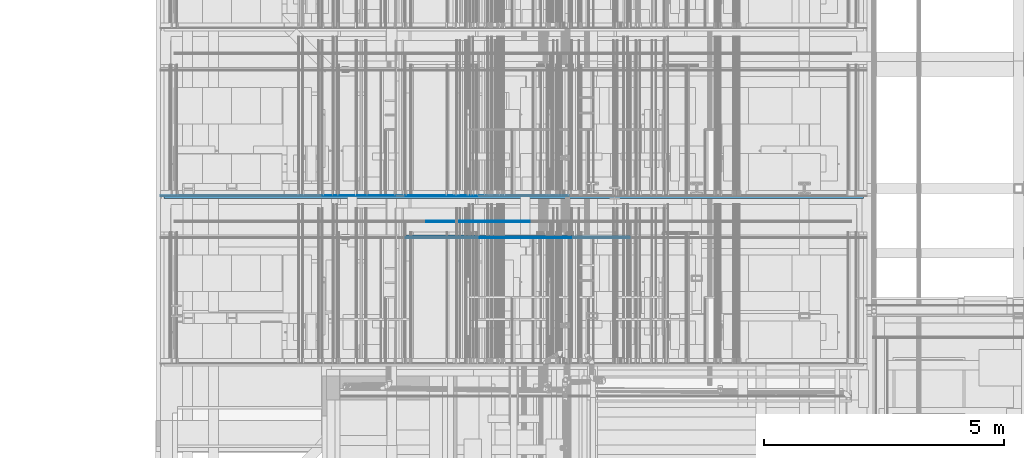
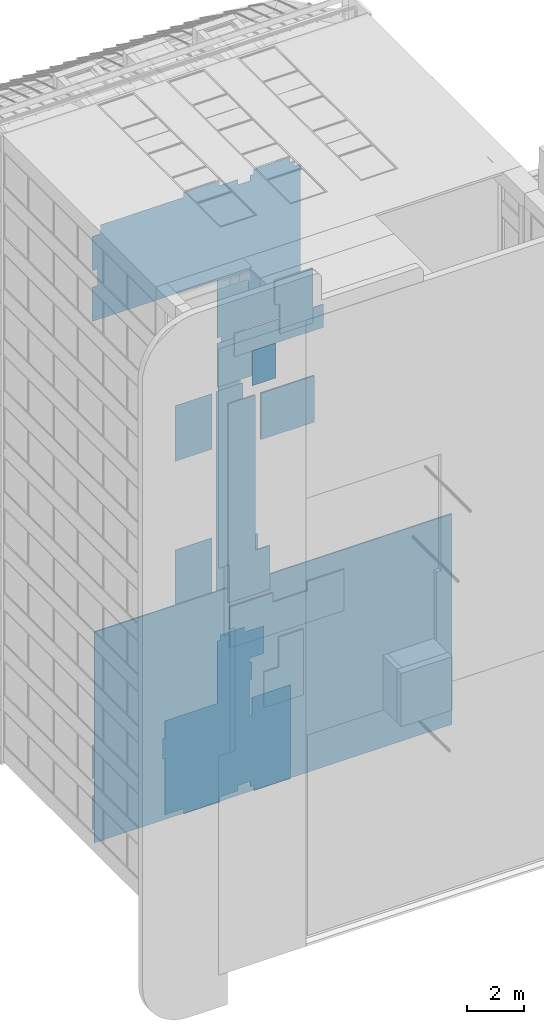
# One storey, part 249 of 583: 23 slabs.
"""IFC2X3 building model written with IfcOpenShell, lengths in metres."""

from ifc_helpers import new_model, entity, si_unit, converted_unit, derived_unit, money_unit, direction, frame, origin_with_axes, place, context, subcontext, project, spatial, faceted_brep, material, type_object, element, save


model = new_model("IFC2X3")

# Units and contexts
model_context = context("Model", 3, precision=1e-05, world=origin_with_axes(), true_north=direction((0.0, 1.0)))
body_context = subcontext(model_context, "Body", "Model", "MODEL_VIEW", scale=1.0)
ifc_project = project(units=[si_unit("LENGTHUNIT", "METRE"), si_unit("AREAUNIT", "SQUARE_METRE"), si_unit("VOLUMEUNIT", "CUBIC_METRE"), si_unit("ABSORBEDDOSEUNIT", "GRAY"), si_unit("AMOUNTOFSUBSTANCEUNIT", "MOLE"), si_unit("DOSEEQUIVALENTUNIT", "SIEVERT"), si_unit("ELECTRICCAPACITANCEUNIT", "FARAD"), si_unit("ELECTRICCHARGEUNIT", "COULOMB"), si_unit("ELECTRICCONDUCTANCEUNIT", "SIEMENS"), si_unit("ELECTRICCURRENTUNIT", "AMPERE"), si_unit("ELECTRICRESISTANCEUNIT", "OHM"), si_unit("ELECTRICVOLTAGEUNIT", "VOLT"), si_unit("ENERGYUNIT", "JOULE"), si_unit("FORCEUNIT", "NEWTON"), si_unit("FREQUENCYUNIT", "HERTZ"), si_unit("ILLUMINANCEUNIT", "LUX"), si_unit("INDUCTANCEUNIT", "HENRY"), si_unit("LUMINOUSFLUXUNIT", "LUMEN"), si_unit("LUMINOUSINTENSITYUNIT", "CANDELA"), si_unit("MAGNETICFLUXDENSITYUNIT", "TESLA"), si_unit("MAGNETICFLUXUNIT", "WEBER"), si_unit("MASSUNIT", "GRAM"), converted_unit("PLANEANGLEUNIT", "degree", entity("IfcReal", 0.0174532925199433), si_unit("PLANEANGLEUNIT", "RADIAN"), dimensions=[0, 0, 0, 0, 0, 0, 0]), si_unit("POWERUNIT", "WATT"), si_unit("PRESSUREUNIT", "PASCAL"), si_unit("RADIOACTIVITYUNIT", "BECQUEREL"), si_unit("SOLIDANGLEUNIT", "STERADIAN"), si_unit("THERMODYNAMICTEMPERATUREUNIT", "KELVIN"), si_unit("TIMEUNIT", "SECOND"), derived_unit("ACCELERATIONUNIT", [(si_unit("LENGTHUNIT", "METRE"), 1), (si_unit("TIMEUNIT", "SECOND"), -2)]), derived_unit("ANGULARVELOCITYUNIT", [(converted_unit("PLANEANGLEUNIT", "degree", entity("IfcReal", 0.0174532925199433), si_unit("PLANEANGLEUNIT", "RADIAN"), dimensions=[0, 0, 0, 0, 0, 0, 0]), 1), (si_unit("TIMEUNIT", "SECOND"), -1)]), derived_unit("CURVATUREUNIT", [(converted_unit("PLANEANGLEUNIT", "degree", entity("IfcReal", 0.0174532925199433), si_unit("PLANEANGLEUNIT", "RADIAN"), dimensions=[0, 0, 0, 0, 0, 0, 0]), 1), (si_unit("LENGTHUNIT", "METRE"), -1)]), derived_unit("DYNAMICVISCOSITYUNIT", [(si_unit("PRESSUREUNIT", "PASCAL"), 1), (si_unit("TIMEUNIT", "SECOND"), 1)]), derived_unit("HEATFLUXDENSITYUNIT", [(si_unit("POWERUNIT", "WATT"), 1), (si_unit("LENGTHUNIT", "METRE"), -2)]), derived_unit("HEATINGVALUEUNIT", [(si_unit("ENERGYUNIT", "JOULE"), 1), (si_unit("MASSUNIT", "GRAM"), -1)]), derived_unit("INTEGERCOUNTRATEUNIT", [(si_unit("TIMEUNIT", "SECOND"), -1)]), derived_unit("IONCONCENTRATIONUNIT", [(si_unit("MASSUNIT", "GRAM"), 1), (si_unit("VOLUMEUNIT", "CUBIC_METRE"), -1)]), derived_unit("ISOTHERMALMOISTURECAPACITYUNIT", [(si_unit("VOLUMEUNIT", "CUBIC_METRE"), 1), (si_unit("MASSUNIT", "GRAM"), -1)]), derived_unit("KINEMATICVISCOSITYUNIT", [(si_unit("AREAUNIT", "SQUARE_METRE"), 1), (si_unit("TIMEUNIT", "SECOND"), -1)]), derived_unit("LINEARFORCEUNIT", [(si_unit("FORCEUNIT", "NEWTON"), 1), (si_unit("LENGTHUNIT", "METRE"), -1)]), derived_unit("LINEARMOMENTUNIT", [(si_unit("FORCEUNIT", "NEWTON"), 1), (si_unit("LENGTHUNIT", "METRE"), -1)]), derived_unit("LINEARSTIFFNESSUNIT", [(si_unit("FORCEUNIT", "NEWTON"), 1), (si_unit("LENGTHUNIT", "METRE"), -1)]), derived_unit("LINEARVELOCITYUNIT", [(si_unit("LENGTHUNIT", "METRE"), 1), (si_unit("TIMEUNIT", "SECOND"), -1)]), derived_unit("LUMINOUSINTENSITYDISTRIBUTIONUNIT", [(si_unit("LUMINOUSINTENSITYUNIT", "CANDELA"), 1), (si_unit("LUMINOUSFLUXUNIT", "LUMEN"), -1)]), derived_unit("MASSDENSITYUNIT", [(si_unit("MASSUNIT", "GRAM"), 1), (si_unit("VOLUMEUNIT", "CUBIC_METRE"), -1)]), derived_unit("MASSFLOWRATEUNIT", [(si_unit("MASSUNIT", "GRAM"), 1), (si_unit("TIMEUNIT", "SECOND"), -1)]), derived_unit("MASSPERLENGTHUNIT", [(si_unit("MASSUNIT", "GRAM"), 1), (si_unit("LENGTHUNIT", "METRE"), -1)]), derived_unit("MODULUSOFELASTICITYUNIT", [(si_unit("FORCEUNIT", "NEWTON"), 1), (si_unit("AREAUNIT", "SQUARE_METRE"), -1)]), derived_unit("MODULUSOFLINEARSUBGRADEREACTIONUNIT", [(si_unit("FORCEUNIT", "NEWTON"), 1), (si_unit("LENGTHUNIT", "METRE"), -2)]), derived_unit("MODULUSOFROTATIONALSUBGRADEREACTIONUNIT", [(si_unit("FORCEUNIT", "NEWTON"), 1), (si_unit("LENGTHUNIT", "METRE"), 1)]), derived_unit("MODULUSOFSUBGRADEREACTIONUNIT", [(si_unit("FORCEUNIT", "NEWTON"), 1), (si_unit("VOLUMEUNIT", "CUBIC_METRE"), -1)]), derived_unit("MOISTUREDIFFUSIVITYUNIT", [(si_unit("VOLUMEUNIT", "CUBIC_METRE"), 1), (si_unit("TIMEUNIT", "SECOND"), -1)]), derived_unit("MOLECULARWEIGHTUNIT", [(si_unit("MASSUNIT", "GRAM"), 1), (si_unit("AMOUNTOFSUBSTANCEUNIT", "MOLE"), -1)]), derived_unit("PLANARFORCEUNIT", [(si_unit("FORCEUNIT", "NEWTON"), 1), (si_unit("LENGTHUNIT", "METRE"), -2)]), derived_unit("ROTATIONALFREQUENCYUNIT", [(si_unit("TIMEUNIT", "SECOND"), -1)]), derived_unit("ROTATIONALMASSUNIT", [(si_unit("MASSUNIT", "GRAM"), 1), (si_unit("LENGTHUNIT", "METRE"), 2)]), derived_unit("ROTATIONALSTIFFNESSUNIT", [(si_unit("FORCEUNIT", "NEWTON"), 1), (si_unit("LENGTHUNIT", "METRE"), 1), (converted_unit("PLANEANGLEUNIT", "degree", entity("IfcReal", 0.0174532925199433), si_unit("PLANEANGLEUNIT", "RADIAN"), dimensions=[0, 0, 0, 0, 0, 0, 0]), -1)]), derived_unit("SECTIONAREAINTEGRALUNIT", [(si_unit("LENGTHUNIT", "METRE"), 5)]), derived_unit("SECTIONMODULUSUNIT", [(si_unit("LENGTHUNIT", "METRE"), 3)]), derived_unit("SHEARMODULUSUNIT", [(si_unit("FORCEUNIT", "NEWTON"), 1), (si_unit("AREAUNIT", "SQUARE_METRE"), -1)]), derived_unit("SOUNDPOWERUNIT", [(si_unit("ENERGYUNIT", "JOULE"), 1), (si_unit("TIMEUNIT", "SECOND"), -1)]), derived_unit("SPECIFICHEATCAPACITYUNIT", [(si_unit("FORCEUNIT", "NEWTON"), 1), (si_unit("MASSUNIT", "GRAM"), -1), (si_unit("THERMODYNAMICTEMPERATUREUNIT", "KELVIN"), -1)]), derived_unit("TEMPERATUREGRADIENTUNIT", [(si_unit("THERMODYNAMICTEMPERATUREUNIT", "KELVIN"), 1), (si_unit("LENGTHUNIT", "METRE"), -1)]), derived_unit("THERMALADMITTANCEUNIT", [(si_unit("POWERUNIT", "WATT"), 1), (si_unit("AREAUNIT", "SQUARE_METRE"), -1), (si_unit("THERMODYNAMICTEMPERATUREUNIT", "KELVIN"), -1)]), derived_unit("THERMALCONDUCTANCEUNIT", [(si_unit("POWERUNIT", "WATT"), 1), (si_unit("LENGTHUNIT", "METRE"), -1), (si_unit("THERMODYNAMICTEMPERATUREUNIT", "KELVIN"), -1)]), derived_unit("THERMALEXPANSIONCOEFFICIENTUNIT", [(si_unit("THERMODYNAMICTEMPERATUREUNIT", "KELVIN"), -1)]), derived_unit("THERMALRESISTANCEUNIT", [(si_unit("AREAUNIT", "SQUARE_METRE"), 1), (si_unit("POWERUNIT", "WATT"), -1)]), derived_unit("THERMALTRANSMITTANCEUNIT", [(si_unit("POWERUNIT", "WATT"), 1), (si_unit("AREAUNIT", "SQUARE_METRE"), -1), (si_unit("THERMODYNAMICTEMPERATUREUNIT", "KELVIN"), -1)]), derived_unit("TORQUEUNIT", [(si_unit("FORCEUNIT", "NEWTON"), 1), (si_unit("LENGTHUNIT", "METRE"), 1)]), derived_unit("VAPORPERMEABILITYUNIT", [(si_unit("MASSUNIT", "GRAM"), 1), (si_unit("TIMEUNIT", "SECOND"), -1)]), derived_unit("VOLUMETRICFLOWRATEUNIT", [(si_unit("VOLUMEUNIT", "CUBIC_METRE"), 1), (si_unit("TIMEUNIT", "SECOND"), -1)]), derived_unit("WARPINGCONSTANTUNIT", [(si_unit("LENGTHUNIT", "METRE"), 6)]), derived_unit("WARPINGMOMENTUNIT", [(si_unit("FORCEUNIT", "NEWTON"), 1), (si_unit("LENGTHUNIT", "METRE"), 2)]), money_unit("GBP")], contexts=[model_context])

# Site, building, storey
site_placement = place(None, origin_with_axes())
site = spatial("IfcSite", under=ifc_project, at=site_placement, Name="Site", CompositionType="ELEMENT")
building_placement = place(site_placement, origin_with_axes())
building = spatial("IfcBuilding", under=site, at=building_placement, Name="Building01", CompositionType="ELEMENT")
storey_placement = place(building_placement, frame((0.0, 0.0, 20.78), z_axis=(0.0, 0.0, 1.0), x_axis=(1.0, 0.0, 0.0)))
storey = spatial("IfcBuildingStorey", under=building, at=storey_placement, Name="RL", CompositionType="ELEMENT", Elevation=20.78)

# Slabs
ifc_material_1 = material(Name="A_BSUK_CeilingSoffitFinishes_Suspended")
slab_type_1 = type_object("IfcSlabType", Name="A-FloorsSlabs A_BSUK_Slabs", PredefinedType="FLOOR")
placement = place(storey_placement, frame((0.0, 0.0, -20.78), z_axis=(0.0, 0.0, 1.0), x_axis=(1.0, 0.0, 0.0)))
element("IfcSlab", 1, at=placement, inside=storey, type_object=slab_type_1, material=ifc_material_1, Name="A-FloorsSlabs A_BSUK_Slabs", ObjectType="CompoundSlabLeaf", context=body_context, shape_type="Brep", body=[
    faceted_brep([(5.205, 7.765, 7.289669), (5.205, 7.78, 7.289669), (9.862704, 7.78, 7.289669), (9.862704, 7.765, 7.289669), (5.205, 7.765, 9.06), (5.205, 7.78, 9.06), (6.968405, 7.765, 9.06), (6.968405, 7.78, 9.06), (6.968405, 7.765, 8.658), (6.968405, 7.78, 8.658), (8.372405, 7.765, 8.658), (8.372405, 7.78, 8.658), (8.372405, 7.765, 9.06), (8.372405, 7.78, 9.06), (8.665, 7.765, 9.06), (8.665, 7.78, 9.06), (9.862704, 7.765, 9.06), (9.862704, 7.78, 9.06)], [[[0, 1, 2, 3]], [[4, 5, 1, 0]], [[6, 7, 5, 4]], [[8, 9, 7, 6]], [[10, 11, 9, 8]], [[12, 13, 11, 10]], [[14, 15, 13, 12]], [[16, 17, 15, 14]], [[3, 2, 17, 16]], [[1, 5, 7, 9, 11, 13, 15, 17, 2]], [[3, 16, 14, 12, 10, 8, 6, 4, 0]]]),
])
element("IfcSlab", 2, at=placement, inside=storey, type_object=slab_type_1, material=ifc_material_1, Name="A-FloorsSlabs A_BSUK_Slabs", ObjectType="CompoundSlabLeaf", context=body_context, shape_type="Brep", body=[
    faceted_brep([(6.475, 7.765, 15.83), (6.475, 7.78, 15.83), (8.65, 7.78, 15.83), (8.65, 7.765, 15.83), (6.475, 7.765, 17.83), (6.475, 7.78, 17.83), (8.65, 7.765, 17.83), (8.65, 7.78, 17.83)], [[[0, 1, 2, 3]], [[4, 5, 1, 0]], [[6, 7, 5, 4]], [[3, 2, 7, 6]], [[1, 5, 7, 2]], [[3, 6, 4, 0]]]),
])
element("IfcSlab", 3, at=placement, inside=storey, type_object=slab_type_1, material=ifc_material_1, Name="A-FloorsSlabs A_BSUK_Slabs", ObjectType="CompoundSlabLeaf", context=body_context, shape_type="Brep", body=[
    faceted_brep([(8.595, 7.765, 20.122661), (8.595, 7.78, 20.122661), (8.595, 7.78, 22.476661), (8.595, 7.765, 22.476661), (7.25, 7.765, 20.122661), (7.25, 7.78, 20.122661), (7.25, 7.765, 21.417661), (7.25, 7.78, 21.417661), (7.05, 7.765, 21.417661), (7.05, 7.78, 21.417661), (7.05, 7.765, 22.476661), (7.05, 7.78, 22.476661)], [[[0, 1, 2, 3]], [[4, 5, 1, 0]], [[6, 7, 5, 4]], [[8, 9, 7, 6]], [[10, 11, 9, 8]], [[3, 2, 11, 10]], [[1, 5, 7, 9, 11, 2]], [[3, 10, 8, 6, 4, 0]]]),
])
element("IfcSlab", 4, at=placement, inside=storey, type_object=slab_type_1, material=ifc_material_1, Name="A-FloorsSlabs A_BSUK_Slabs", ObjectType="CompoundSlabLeaf", context=body_context, shape_type="Brep", body=[
    faceted_brep([(8.21067, 7.765, 4.24073), (8.21067, 7.78, 4.24073), (8.21067, 7.78, 7.064669), (8.21067, 7.765, 7.064669), (6.606475, 7.765, 4.24073), (6.606475, 7.78, 4.24073), (6.606475, 7.765, 5.769669), (6.606475, 7.78, 5.769669), (7.206475, 7.765, 5.769669), (7.206475, 7.78, 5.769669), (7.206475, 7.765, 7.064669), (7.206475, 7.78, 7.064669)], [[[0, 1, 2, 3]], [[4, 5, 1, 0]], [[6, 7, 5, 4]], [[8, 9, 7, 6]], [[10, 11, 9, 8]], [[3, 2, 11, 10]], [[1, 5, 7, 9, 11, 2]], [[3, 10, 8, 6, 4, 0]]]),
])
element("IfcSlab", 5, at=placement, inside=storey, type_object=slab_type_1, material=ifc_material_1, Name="A-FloorsSlabs A_BSUK_Slabs", ObjectType="CompoundSlabLeaf", context=body_context, shape_type="Brep", body=[
    faceted_brep([(5.593, 8.115, 19.510161), (5.593, 8.13, 19.510161), (9.2075, 8.13, 19.510161), (9.2075, 8.115, 19.510161), (5.593, 8.115, 20.510161), (5.593, 8.13, 20.510161), (9.2075, 8.115, 20.510161), (9.2075, 8.13, 20.510161)], [[[0, 1, 2, 3]], [[4, 5, 1, 0]], [[6, 7, 5, 4]], [[3, 2, 7, 6]], [[1, 5, 7, 2]], [[3, 6, 4, 0]]]),
])
element("IfcSlab", 6, at=placement, inside=storey, type_object=slab_type_1, material=ifc_material_1, Name="A-FloorsSlabs A_BSUK_Slabs", ObjectType="CompoundSlabLeaf", context=body_context, shape_type="Brep", body=[
    faceted_brep([(6.3175, 8.115, 18.0), (6.3175, 8.13, 18.0), (7.27, 8.13, 18.0), (7.27, 8.115, 18.0), (6.3175, 8.115, 19.510161), (6.3175, 8.13, 19.510161), (7.27, 8.115, 19.510161), (7.27, 8.13, 19.510161)], [[[0, 1, 2, 3]], [[4, 5, 1, 0]], [[6, 7, 5, 4]], [[3, 2, 7, 6]], [[1, 5, 7, 2]], [[3, 6, 4, 0]]]),
])
element("IfcSlab", 7, at=placement, inside=storey, type_object=slab_type_1, material=ifc_material_1, Name="A-FloorsSlabs A_BSUK_Slabs", ObjectType="CompoundSlabLeaf", context=body_context, shape_type="Brep", body=[
    faceted_brep([(5.593, 8.1, 19.510161), (5.593, 8.115, 19.510161), (9.2075, 8.115, 19.510161), (9.2075, 8.1, 19.510161), (5.593, 8.1, 20.510161), (5.593, 8.115, 20.510161), (9.2075, 8.1, 20.510161), (9.2075, 8.115, 20.510161)], [[[0, 1, 2, 3]], [[4, 5, 1, 0]], [[6, 7, 5, 4]], [[3, 2, 7, 6]], [[1, 5, 7, 2]], [[3, 6, 4, 0]]]),
])
element("IfcSlab", 8, at=placement, inside=storey, type_object=slab_type_1, material=ifc_material_1, Name="A-FloorsSlabs A_BSUK_Slabs", ObjectType="CompoundSlabLeaf", context=body_context, shape_type="Brep", body=[
    faceted_brep([(6.3175, 8.1, 18.0), (6.3175, 8.115, 18.0), (7.27, 8.115, 18.0), (7.27, 8.1, 18.0), (6.3175, 8.1, 19.510161), (6.3175, 8.115, 19.510161), (7.27, 8.1, 19.510161), (7.27, 8.115, 19.510161)], [[[0, 1, 2, 3]], [[4, 5, 1, 0]], [[6, 7, 5, 4]], [[3, 2, 7, 6]], [[1, 5, 7, 2]], [[3, 6, 4, 0]]]),
])
ifc_material_2 = material(Name="A_BSUK_InternalFinishes_FloorScreed")
element("IfcSlab", 9, at=placement, inside=storey, type_object=slab_type_1, material=ifc_material_2, Name="A-FloorsSlabs A_BSUK_Slabs", ObjectType="CompoundSlabLeaf", context=body_context, shape_type="Brep", body=[
    faceted_brep([(14.73, 8.59, 0.17), (14.73, 8.64, 0.17), (14.73, 8.64, 9.25), (14.73, 8.59, 9.25), (0.17, 8.59, 0.17), (0.17, 8.64, 0.17), (0.17, 8.59, 9.25), (0.17, 8.64, 9.25)], [[[0, 1, 2, 3]], [[4, 5, 1, 0]], [[6, 7, 5, 4]], [[3, 2, 7, 6]], [[1, 5, 7, 2]], [[3, 6, 4, 0]]]),
])
ifc_material_3 = material(Name="A_BSUK_ExpandedPolystyreneBoards")
element("IfcSlab", 10, at=placement, inside=storey, type_object=slab_type_1, material=ifc_material_3, Name="A-FloorsSlabs A_BSUK_Slabs", ObjectType="CompoundSlabLeaf", context=body_context, shape_type="Brep", body=[
    faceted_brep([(6.69, 8.64, 18.0), (6.69, 8.643, 18.0), (6.69, 8.643, 19.897661), (6.69, 8.64, 19.897661), (5.205, 8.64, 18.0), (5.205, 8.643, 18.0), (5.205, 8.64, 19.897661), (5.205, 8.643, 19.897661)], [[[0, 1, 2, 3]], [[4, 5, 1, 0]], [[6, 7, 5, 4]], [[3, 2, 7, 6]], [[1, 5, 7, 2]], [[3, 6, 4, 0]]]),
])
element("IfcSlab", 11, at=placement, inside=storey, type_object=slab_type_1, material=ifc_material_3, Name="A-FloorsSlabs A_BSUK_Slabs", ObjectType="CompoundSlabLeaf", context=body_context, shape_type="Brep", body=[
    faceted_brep([(6.357147, 8.64, 20.122661), (6.357147, 8.643, 20.122661), (8.595, 8.643, 20.122661), (8.595, 8.64, 20.122661), (6.357147, 8.64, 19.897661), (6.357147, 8.643, 19.897661), (5.357147, 8.64, 19.897661), (5.357147, 8.643, 19.897661), (5.357147, 8.64, 20.122661), (5.357147, 8.643, 20.122661), (5.205, 8.64, 20.122661), (5.205, 8.643, 20.122661), (5.205, 8.64, 22.625), (5.205, 8.643, 22.625), (0.1, 8.64, 22.625), (0.1, 8.643, 22.625), (0.1, 8.64, 24.095), (0.1, 8.643, 24.095), (0.318, 8.64, 24.095), (0.318, 8.643, 24.095), (0.318, 8.64, 24.815), (0.318, 8.643, 24.815), (0.1, 8.64, 24.815), (0.1, 8.643, 24.815), (0.1, 8.64, 26.285), (0.1, 8.643, 26.285), (0.448, 8.64, 26.285), (0.448, 8.643, 26.285), (0.448, 8.64, 26.662), (0.448, 8.643, 26.662), (3.82218, 8.64, 26.662), (3.82218, 8.643, 26.662), (3.82218, 8.64, 26.88), (3.82218, 8.643, 26.88), (5.29218, 8.64, 26.88), (5.29218, 8.643, 26.88), (5.29218, 8.64, 26.662), (5.29218, 8.643, 26.662), (6.052, 8.64, 26.662), (6.052, 8.643, 26.662), (6.052, 8.64, 26.432), (6.052, 8.643, 26.432), (6.548, 8.64, 26.432), (6.548, 8.643, 26.432), (6.548, 8.64, 26.662), (6.548, 8.643, 26.662), (6.682326, 8.64, 26.662), (6.682326, 8.643, 26.662), (6.682326, 8.64, 26.88), (6.682326, 8.643, 26.88), (8.152326, 8.64, 26.88), (8.152326, 8.643, 26.88), (8.152326, 8.64, 26.662), (8.152326, 8.643, 26.662), (8.352, 8.64, 26.662), (8.352, 8.643, 26.662), (8.352, 8.64, 26.432), (8.352, 8.643, 26.432), (8.595, 8.64, 26.432), (8.595, 8.643, 26.432)], [[[0, 1, 2, 3]], [[4, 5, 1, 0]], [[6, 7, 5, 4]], [[8, 9, 7, 6]], [[10, 11, 9, 8]], [[12, 13, 11, 10]], [[14, 15, 13, 12]], [[16, 17, 15, 14]], [[18, 19, 17, 16]], [[20, 21, 19, 18]], [[22, 23, 21, 20]], [[24, 25, 23, 22]], [[26, 27, 25, 24]], [[28, 29, 27, 26]], [[30, 31, 29, 28]], [[32, 33, 31, 30]], [[34, 35, 33, 32]], [[36, 37, 35, 34]], [[38, 39, 37, 36]], [[40, 41, 39, 38]], [[42, 43, 41, 40]], [[44, 45, 43, 42]], [[46, 47, 45, 44]], [[48, 49, 47, 46]], [[50, 51, 49, 48]], [[52, 53, 51, 50]], [[54, 55, 53, 52]], [[56, 57, 55, 54]], [[58, 59, 57, 56]], [[3, 2, 59, 58]], [[1, 5, 7, 9, 11, 13, 15, 17, 19, 21, 23, 25, 27, 29, 31, 33, 35, 37, 39, 41, 43, 45, 47, 49, 51, 53, 55, 57, 59, 2]], [[3, 58, 56, 54, 52, 50, 48, 46, 44, 42, 40, 38, 36, 34, 32, 30, 28, 26, 24, 22, 20, 18, 16, 14, 12, 10, 8, 6, 4, 0]]]),
])
element("IfcSlab", 12, at=placement, inside=storey, type_object=slab_type_1, material=ifc_material_3, Name="A-FloorsSlabs A_BSUK_Slabs", ObjectType="CompoundSlabLeaf", context=body_context, shape_type="Brep", body=[
    faceted_brep([(8.21067, 8.64, 0.318), (8.21067, 8.643, 0.318), (8.21067, 8.643, 7.064669), (8.21067, 8.64, 7.064669), (8.185, 8.64, 0.318), (8.185, 8.643, 0.318), (8.185, 8.64, 0.1), (8.185, 8.643, 0.1), (6.69218, 8.64, 0.1), (6.69218, 8.643, 0.1), (6.69218, 8.64, 0.318), (6.69218, 8.643, 0.318), (6.548, 8.64, 0.318), (6.548, 8.643, 0.318), (6.548, 8.64, 0.548), (6.548, 8.643, 0.548), (6.052, 8.64, 0.548), (6.052, 8.643, 0.548), (6.052, 8.64, 0.318), (6.052, 8.643, 0.318), (5.315, 8.64, 0.318), (5.315, 8.643, 0.318), (5.315, 8.64, 0.1), (5.315, 8.643, 0.1), (3.82218, 8.64, 0.1), (3.82218, 8.643, 0.1), (3.82218, 8.64, 0.318), (3.82218, 8.643, 0.318), (0.448, 8.64, 0.318), (0.448, 8.643, 0.318), (0.448, 8.64, 0.725), (0.448, 8.643, 0.725), (0.1, 8.64, 0.725), (0.1, 8.643, 0.725), (0.1, 8.64, 2.195), (0.1, 8.643, 2.195), (0.318, 8.64, 2.195), (0.318, 8.643, 2.195), (0.318, 8.64, 2.915), (0.318, 8.643, 2.915), (0.1, 8.64, 2.915), (0.1, 8.643, 2.915), (0.1, 8.64, 4.385), (0.1, 8.643, 4.385), (0.318, 8.64, 4.385), (0.318, 8.643, 4.385), (5.205, 8.64, 4.385), (5.205, 8.643, 4.385), (5.205, 8.64, 7.064669), (5.205, 8.643, 7.064669), (5.316475, 8.64, 7.064669), (5.316475, 8.643, 7.064669), (5.316475, 8.64, 7.289669), (5.316475, 8.643, 7.289669), (6.316475, 8.64, 7.289669), (6.316475, 8.643, 7.289669), (6.316475, 8.64, 7.064669), (6.316475, 8.643, 7.064669)], [[[0, 1, 2, 3]], [[4, 5, 1, 0]], [[6, 7, 5, 4]], [[8, 9, 7, 6]], [[10, 11, 9, 8]], [[12, 13, 11, 10]], [[14, 15, 13, 12]], [[16, 17, 15, 14]], [[18, 19, 17, 16]], [[20, 21, 19, 18]], [[22, 23, 21, 20]], [[24, 25, 23, 22]], [[26, 27, 25, 24]], [[28, 29, 27, 26]], [[30, 31, 29, 28]], [[32, 33, 31, 30]], [[34, 35, 33, 32]], [[36, 37, 35, 34]], [[38, 39, 37, 36]], [[40, 41, 39, 38]], [[42, 43, 41, 40]], [[44, 45, 43, 42]], [[46, 47, 45, 44]], [[48, 49, 47, 46]], [[50, 51, 49, 48]], [[52, 53, 51, 50]], [[54, 55, 53, 52]], [[56, 57, 55, 54]], [[3, 2, 57, 56]], [[1, 5, 7, 9, 11, 13, 15, 17, 19, 21, 23, 25, 27, 29, 31, 33, 35, 37, 39, 41, 43, 45, 47, 49, 51, 53, 55, 57, 2]], [[3, 56, 54, 52, 50, 48, 46, 44, 42, 40, 38, 36, 34, 32, 30, 28, 26, 24, 22, 20, 18, 16, 14, 12, 10, 8, 6, 4, 0]]]),
])
ifc_material_4 = material(Name="A_BSUK_Parquet_Floor")
element("IfcSlab", 13, at=placement, inside=storey, type_object=slab_type_1, material=ifc_material_4, Name="A-FloorsSlabs A_BSUK_Slabs", ObjectType="CompoundSlabLeaf", context=body_context, shape_type="Brep", body=[
    faceted_brep([(5.357147, 8.643, 19.897661), (5.357147, 8.655, 19.897661), (6.357147, 8.655, 19.897661), (6.357147, 8.643, 19.897661), (5.357147, 8.643, 20.122661), (5.357147, 8.655, 20.122661), (5.205, 8.643, 20.122661), (5.205, 8.655, 20.122661), (5.205, 8.643, 22.625), (5.205, 8.655, 22.625), (0.1, 8.643, 22.625), (0.1, 8.655, 22.625), (0.1, 8.643, 24.095), (0.1, 8.655, 24.095), (0.318, 8.643, 24.095), (0.318, 8.655, 24.095), (0.318, 8.643, 24.815), (0.318, 8.655, 24.815), (0.1, 8.643, 24.815), (0.1, 8.655, 24.815), (0.1, 8.643, 26.285), (0.1, 8.655, 26.285), (0.448, 8.643, 26.285), (0.448, 8.655, 26.285), (0.448, 8.643, 26.662), (0.448, 8.655, 26.662), (3.82218, 8.643, 26.662), (3.82218, 8.655, 26.662), (3.82218, 8.643, 26.88), (3.82218, 8.655, 26.88), (5.29218, 8.643, 26.88), (5.29218, 8.655, 26.88), (5.29218, 8.643, 26.662), (5.29218, 8.655, 26.662), (6.052, 8.643, 26.662), (6.052, 8.655, 26.662), (6.052, 8.643, 26.432), (6.052, 8.655, 26.432), (6.548, 8.643, 26.432), (6.548, 8.655, 26.432), (6.548, 8.643, 26.662), (6.548, 8.655, 26.662), (6.682326, 8.643, 26.662), (6.682326, 8.655, 26.662), (6.682326, 8.643, 26.88), (6.682326, 8.655, 26.88), (8.152326, 8.643, 26.88), (8.152326, 8.655, 26.88), (8.152326, 8.643, 26.662), (8.152326, 8.655, 26.662), (8.352, 8.643, 26.662), (8.352, 8.655, 26.662), (8.352, 8.643, 26.432), (8.352, 8.655, 26.432), (8.595, 8.643, 26.432), (8.595, 8.655, 26.432), (8.595, 8.643, 22.571661), (8.595, 8.655, 22.571661), (7.0, 8.643, 22.571661), (7.0, 8.655, 22.571661), (7.0, 8.643, 23.271529), (7.0, 8.655, 23.271529), (6.905, 8.643, 23.271529), (6.905, 8.655, 23.271529), (6.905, 8.643, 22.326661), (6.905, 8.655, 22.326661), (7.0, 8.643, 22.326661), (7.0, 8.655, 22.326661), (7.0, 8.643, 21.576661), (7.0, 8.655, 21.576661), (6.905, 8.643, 21.576661), (6.905, 8.655, 21.576661), (6.905, 8.643, 21.322661), (6.905, 8.655, 21.322661), (7.155, 8.643, 21.322661), (7.155, 8.655, 21.322661), (7.155, 8.643, 20.122661), (7.155, 8.655, 20.122661), (6.905, 8.643, 20.122661), (6.905, 8.655, 20.122661), (6.357147, 8.643, 20.122661), (6.357147, 8.655, 20.122661)], [[[0, 1, 2, 3]], [[4, 5, 1, 0]], [[6, 7, 5, 4]], [[8, 9, 7, 6]], [[10, 11, 9, 8]], [[12, 13, 11, 10]], [[14, 15, 13, 12]], [[16, 17, 15, 14]], [[18, 19, 17, 16]], [[20, 21, 19, 18]], [[22, 23, 21, 20]], [[24, 25, 23, 22]], [[26, 27, 25, 24]], [[28, 29, 27, 26]], [[30, 31, 29, 28]], [[32, 33, 31, 30]], [[34, 35, 33, 32]], [[36, 37, 35, 34]], [[38, 39, 37, 36]], [[40, 41, 39, 38]], [[42, 43, 41, 40]], [[44, 45, 43, 42]], [[46, 47, 45, 44]], [[48, 49, 47, 46]], [[50, 51, 49, 48]], [[52, 53, 51, 50]], [[54, 55, 53, 52]], [[56, 57, 55, 54]], [[58, 59, 57, 56]], [[60, 61, 59, 58]], [[62, 63, 61, 60]], [[64, 65, 63, 62]], [[66, 67, 65, 64]], [[68, 69, 67, 66]], [[70, 71, 69, 68]], [[72, 73, 71, 70]], [[74, 75, 73, 72]], [[76, 77, 75, 74]], [[78, 79, 77, 76]], [[80, 81, 79, 78]], [[3, 2, 81, 80]], [[1, 5, 7, 9, 11, 13, 15, 17, 19, 21, 23, 25, 27, 29, 31, 33, 35, 37, 39, 41, 43, 45, 47, 49, 51, 53, 55, 57, 59, 61, 63, 65, 67, 69, 71, 73, 75, 77, 79, 81, 2]], [[3, 80, 78, 76, 74, 72, 70, 68, 66, 64, 62, 60, 58, 56, 54, 52, 50, 48, 46, 44, 42, 40, 38, 36, 34, 32, 30, 28, 26, 24, 22, 20, 18, 16, 14, 12, 10, 8, 6, 4, 0]]]),
])
ifc_material_5 = material(Name="A_BSUK_Ceramic_FloorTiles")
element("IfcSlab", 14, at=placement, inside=storey, type_object=slab_type_1, material=ifc_material_5, Name="A-FloorsSlabs A_BSUK_Slabs", ObjectType="CompoundSlabLeaf", context=body_context, shape_type="Brep", body=[
    faceted_brep([(4.98, 8.643, 15.4075), (4.98, 8.655, 15.4075), (4.98, 8.655, 17.8075), (4.98, 8.643, 17.8075), (4.259428, 8.643, 15.4075), (4.259428, 8.655, 15.4075), (3.48, 8.643, 15.4075), (3.48, 8.655, 15.4075), (3.48, 8.643, 17.8075), (3.48, 8.655, 17.8075)], [[[0, 1, 2, 3]], [[4, 5, 1, 0]], [[6, 7, 5, 4]], [[8, 9, 7, 6]], [[3, 2, 9, 8]], [[1, 5, 7, 9, 2]], [[3, 8, 6, 4, 0]]]),
])
element("IfcSlab", 15, at=placement, inside=storey, type_object=slab_type_1, material=ifc_material_5, Name="A-FloorsSlabs A_BSUK_Slabs", ObjectType="CompoundSlabLeaf", context=body_context, shape_type="Brep", body=[
    faceted_brep([(4.98, 8.643, 9.192536), (4.98, 8.655, 9.192536), (4.98, 8.655, 11.592536), (4.98, 8.643, 11.592536), (3.48, 8.643, 9.192536), (3.48, 8.655, 9.192536), (3.48, 8.643, 11.592536), (3.48, 8.655, 11.592536), (4.259428, 8.643, 11.592536), (4.259428, 8.655, 11.592536)], [[[0, 1, 2, 3]], [[4, 5, 1, 0]], [[6, 7, 5, 4]], [[8, 9, 7, 6]], [[3, 2, 9, 8]], [[1, 5, 7, 9, 2]], [[3, 8, 6, 4, 0]]]),
])
element("IfcSlab", 16, at=placement, inside=storey, type_object=slab_type_1, material=ifc_material_4, Name="A-FloorsSlabs A_BSUK_Slabs", ObjectType="CompoundSlabLeaf", context=body_context, shape_type="Brep", body=[
    faceted_brep([(6.316475, 8.643, 7.289669), (6.316475, 8.655, 7.289669), (5.316475, 8.655, 7.289669), (5.316475, 8.643, 7.289669), (6.316475, 8.643, 7.064669), (6.316475, 8.655, 7.064669), (7.111475, 8.643, 7.064669), (7.111475, 8.655, 7.064669), (7.111475, 8.643, 5.864669), (7.111475, 8.655, 5.864669), (6.511475, 8.643, 5.864669), (6.511475, 8.655, 5.864669), (6.511475, 8.643, 5.679088), (6.511475, 8.655, 5.679088), (6.606475, 8.643, 5.679088), (6.606475, 8.655, 5.679088), (6.606475, 8.643, 4.929088), (6.606475, 8.655, 4.929088), (6.511475, 8.643, 4.929088), (6.511475, 8.655, 4.929088), (6.511475, 8.643, 3.37073), (6.511475, 8.655, 3.37073), (6.606475, 8.643, 3.37073), (6.606475, 8.655, 3.37073), (6.606475, 8.643, 4.14573), (6.606475, 8.655, 4.14573), (8.21067, 8.643, 4.14573), (8.21067, 8.655, 4.14573), (8.21067, 8.643, 0.318), (8.21067, 8.655, 0.318), (8.185, 8.643, 0.318), (8.185, 8.655, 0.318), (8.185, 8.643, 0.1), (8.185, 8.655, 0.1), (6.69218, 8.643, 0.1), (6.69218, 8.655, 0.1), (6.69218, 8.643, 0.318), (6.69218, 8.655, 0.318), (6.548, 8.643, 0.318), (6.548, 8.655, 0.318), (6.548, 8.643, 0.548), (6.548, 8.655, 0.548), (6.052, 8.643, 0.548), (6.052, 8.655, 0.548), (6.052, 8.643, 0.318), (6.052, 8.655, 0.318), (5.315, 8.643, 0.318), (5.315, 8.655, 0.318), (5.315, 8.643, 0.1), (5.315, 8.655, 0.1), (3.82218, 8.643, 0.1), (3.82218, 8.655, 0.1), (3.82218, 8.643, 0.318), (3.82218, 8.655, 0.318), (3.065286, 8.643, 0.318), (3.065286, 8.655, 0.318), (3.065286, 8.643, 2.751), (3.065286, 8.655, 2.751), (2.970286, 8.643, 2.751), (2.970286, 8.655, 2.751), (2.970286, 8.643, 3.651), (2.970286, 8.655, 3.651), (3.065286, 8.643, 3.651), (3.065286, 8.655, 3.651), (3.065286, 8.643, 4.385), (3.065286, 8.655, 4.385), (5.205, 8.643, 4.385), (5.205, 8.655, 4.385), (5.205, 8.643, 7.064669), (5.205, 8.655, 7.064669), (5.316475, 8.643, 7.064669), (5.316475, 8.655, 7.064669)], [[[0, 1, 2, 3]], [[4, 5, 1, 0]], [[6, 7, 5, 4]], [[8, 9, 7, 6]], [[10, 11, 9, 8]], [[12, 13, 11, 10]], [[14, 15, 13, 12]], [[16, 17, 15, 14]], [[18, 19, 17, 16]], [[20, 21, 19, 18]], [[22, 23, 21, 20]], [[24, 25, 23, 22]], [[26, 27, 25, 24]], [[28, 29, 27, 26]], [[30, 31, 29, 28]], [[32, 33, 31, 30]], [[34, 35, 33, 32]], [[36, 37, 35, 34]], [[38, 39, 37, 36]], [[40, 41, 39, 38]], [[42, 43, 41, 40]], [[44, 45, 43, 42]], [[46, 47, 45, 44]], [[48, 49, 47, 46]], [[50, 51, 49, 48]], [[52, 53, 51, 50]], [[54, 55, 53, 52]], [[56, 57, 55, 54]], [[58, 59, 57, 56]], [[60, 61, 59, 58]], [[62, 63, 61, 60]], [[64, 65, 63, 62]], [[66, 67, 65, 64]], [[68, 69, 67, 66]], [[70, 71, 69, 68]], [[3, 2, 71, 70]], [[1, 5, 7, 9, 11, 13, 15, 17, 19, 21, 23, 25, 27, 29, 31, 33, 35, 37, 39, 41, 43, 45, 47, 49, 51, 53, 55, 57, 59, 61, 63, 65, 67, 69, 71, 2]], [[3, 70, 68, 66, 64, 62, 60, 58, 56, 54, 52, 50, 48, 46, 44, 42, 40, 38, 36, 34, 32, 30, 28, 26, 24, 22, 20, 18, 16, 14, 12, 10, 8, 6, 4, 0]]]),
])
ifc_material_6 = material(Name="A_BSUK_Carpet-Pile")
element("IfcSlab", 17, at=placement, inside=storey, type_object=slab_type_1, material=ifc_material_6, Name="A-FloorsSlabs A_BSUK_Slabs", ObjectType="CompoundSlabLeaf", context=body_context, shape_type="Brep", body=[
    faceted_brep([(5.25, 8.643, 9.06), (5.25, 8.655, 9.06), (6.15, 8.655, 9.06), (6.15, 8.643, 9.06), (5.25, 8.643, 9.25), (5.25, 8.655, 9.25), (5.15, 8.643, 9.25), (5.15, 8.655, 9.25), (5.15, 8.643, 17.83), (5.15, 8.655, 17.83), (6.25, 8.643, 17.83), (6.25, 8.655, 17.83), (6.25, 8.643, 14.658), (6.25, 8.655, 14.658), (6.25, 8.643, 11.13), (6.25, 8.655, 11.13), (6.85, 8.643, 11.13), (6.85, 8.655, 11.13), (6.85, 8.643, 9.25), (6.85, 8.655, 9.25), (6.15, 8.643, 9.25), (6.15, 8.655, 9.25)], [[[0, 1, 2, 3]], [[4, 5, 1, 0]], [[6, 7, 5, 4]], [[8, 9, 7, 6]], [[10, 11, 9, 8]], [[12, 13, 11, 10]], [[14, 15, 13, 12]], [[16, 17, 15, 14]], [[18, 19, 17, 16]], [[20, 21, 19, 18]], [[3, 2, 21, 20]], [[1, 5, 7, 9, 11, 13, 15, 17, 19, 21, 2]], [[3, 20, 18, 16, 14, 12, 10, 8, 6, 4, 0]]]),
])
element("IfcSlab", 18, at=placement, inside=storey, type_object=slab_type_1, material=ifc_material_6, Name="A-FloorsSlabs A_BSUK_Slabs", ObjectType="CompoundSlabLeaf", context=body_context, shape_type="Brep", body=[
    faceted_brep([(6.705, 8.643, 18.0), (6.705, 8.655, 18.0), (6.705, 8.655, 19.897661), (6.705, 8.643, 19.897661), (6.15, 8.643, 18.0), (6.15, 8.655, 18.0), (6.15, 8.643, 17.83), (6.15, 8.655, 17.83), (5.25, 8.643, 17.83), (5.25, 8.655, 17.83), (5.25, 8.643, 18.0), (5.25, 8.655, 18.0), (5.205, 8.643, 18.0), (5.205, 8.655, 18.0), (5.205, 8.643, 19.897661), (5.205, 8.655, 19.897661)], [[[0, 1, 2, 3]], [[4, 5, 1, 0]], [[6, 7, 5, 4]], [[8, 9, 7, 6]], [[10, 11, 9, 8]], [[12, 13, 11, 10]], [[14, 15, 13, 12]], [[3, 2, 15, 14]], [[1, 5, 7, 9, 11, 13, 15, 2]], [[3, 14, 12, 10, 8, 6, 4, 0]]]),
])
slab_type_2 = type_object("IfcSlabType", Name="A-FloorsSlabs A_BSUK_ExpandedPolystyreneBoards", PredefinedType="FLOOR")
element("IfcSlab", 19, at=placement, inside=storey, type_object=slab_type_2, material=ifc_material_3, Name="A-FloorsSlabs A_BSUK_ExpandedPolystyreneBoards", ObjectType="CompoundSlabLeaf", context=body_context, shape_type="Brep", body=[
    faceted_brep([(6.475, 7.78, 15.83), (6.475, 7.83, 15.83), (8.65, 7.83, 15.83), (8.65, 7.78, 15.83), (6.475, 7.78, 17.83), (6.475, 7.83, 17.83), (8.65, 7.78, 17.83), (8.65, 7.83, 17.83)], [[[0, 1, 2, 3]], [[4, 5, 1, 0]], [[6, 7, 5, 4]], [[3, 2, 7, 6]], [[1, 5, 7, 2]], [[3, 6, 4, 0]]]),
])
element("IfcSlab", 20, at=placement, inside=storey, type_object=slab_type_2, material=ifc_material_3, Name="A-FloorsSlabs A_BSUK_ExpandedPolystyreneBoards", ObjectType="CompoundSlabLeaf", context=body_context, shape_type="Brep", body=[
    faceted_brep([(8.595, 7.78, 20.122661), (8.595, 7.83, 20.122661), (8.595, 7.83, 22.476661), (8.595, 7.78, 22.476661), (7.25, 7.78, 20.122661), (7.25, 7.83, 20.122661), (7.25, 7.78, 21.417661), (7.25, 7.83, 21.417661), (7.05, 7.78, 21.417661), (7.05, 7.83, 21.417661), (7.05, 7.78, 22.476661), (7.05, 7.83, 22.476661)], [[[0, 1, 2, 3]], [[4, 5, 1, 0]], [[6, 7, 5, 4]], [[8, 9, 7, 6]], [[10, 11, 9, 8]], [[3, 2, 11, 10]], [[1, 5, 7, 9, 11, 2]], [[3, 10, 8, 6, 4, 0]]]),
])
element("IfcSlab", 21, at=placement, inside=storey, type_object=slab_type_2, material=ifc_material_3, Name="A-FloorsSlabs A_BSUK_ExpandedPolystyreneBoards", ObjectType="CompoundSlabLeaf", context=body_context, shape_type="Brep", body=[
    faceted_brep([(8.21067, 7.78, 4.24073), (8.21067, 7.83, 4.24073), (8.21067, 7.83, 7.064669), (8.21067, 7.78, 7.064669), (6.606475, 7.78, 4.24073), (6.606475, 7.83, 4.24073), (6.606475, 7.78, 5.769669), (6.606475, 7.83, 5.769669), (7.206475, 7.78, 5.769669), (7.206475, 7.83, 5.769669), (7.206475, 7.78, 7.064669), (7.206475, 7.83, 7.064669)], [[[0, 1, 2, 3]], [[4, 5, 1, 0]], [[6, 7, 5, 4]], [[8, 9, 7, 6]], [[10, 11, 9, 8]], [[3, 2, 11, 10]], [[1, 5, 7, 9, 11, 2]], [[3, 10, 8, 6, 4, 0]]]),
])
element("IfcSlab", 22, at=placement, inside=storey, type_object=slab_type_2, material=ifc_material_3, Name="A-FloorsSlabs A_BSUK_ExpandedPolystyreneBoards", ObjectType="CompoundSlabLeaf", context=body_context, shape_type="Brep", body=[
    faceted_brep([(5.205, 7.78, 7.289669), (5.205, 7.83, 7.289669), (9.862704, 7.83, 7.289669), (9.862704, 7.78, 7.289669), (5.205, 7.78, 9.06), (5.205, 7.83, 9.06), (6.968405, 7.78, 9.06), (6.968405, 7.83, 9.06), (6.968405, 7.78, 8.658), (6.968405, 7.83, 8.658), (8.372405, 7.78, 8.658), (8.372405, 7.83, 8.658), (8.372405, 7.78, 9.06), (8.372405, 7.83, 9.06), (8.665, 7.78, 9.06), (8.665, 7.83, 9.06), (9.862704, 7.78, 9.06), (9.862704, 7.83, 9.06)], [[[0, 1, 2, 3]], [[4, 5, 1, 0]], [[6, 7, 5, 4]], [[8, 9, 7, 6]], [[10, 11, 9, 8]], [[12, 13, 11, 10]], [[14, 15, 13, 12]], [[16, 17, 15, 14]], [[3, 2, 17, 16]], [[1, 5, 7, 9, 11, 13, 15, 17, 2]], [[3, 16, 14, 12, 10, 8, 6, 4, 0]]]),
])
element("IfcSlab", 23, at=placement, inside=storey, type_object=slab_type_2, material=ifc_material_3, Name="A-FloorsSlabs A_BSUK_ExpandedPolystyreneBoards", ObjectType="CompoundSlabLeaf", context=body_context, shape_type="Brep", body=[
    faceted_brep([(5.15, 7.78, 9.25), (5.15, 7.83, 9.25), (6.85, 7.83, 9.25), (6.85, 7.78, 9.25), (5.15, 7.78, 17.83), (5.15, 7.83, 17.83), (6.25, 7.78, 17.83), (6.25, 7.83, 17.83), (6.25, 7.78, 15.679803), (6.25, 7.83, 15.679803), (6.25, 7.78, 11.13), (6.25, 7.83, 11.13), (6.85, 7.78, 11.13), (6.85, 7.83, 11.13)], [[[0, 1, 2, 3]], [[4, 5, 1, 0]], [[6, 7, 5, 4]], [[8, 9, 7, 6]], [[10, 11, 9, 8]], [[12, 13, 11, 10]], [[3, 2, 13, 12]], [[1, 5, 7, 9, 11, 13, 2]], [[3, 12, 10, 8, 6, 4, 0]]]),
])

save(model, "model.ifc")
